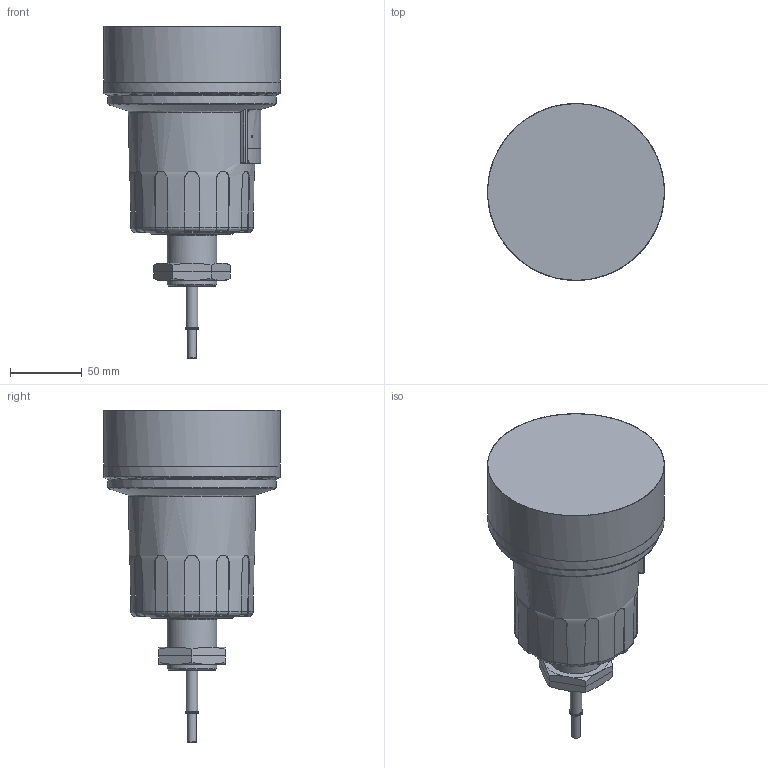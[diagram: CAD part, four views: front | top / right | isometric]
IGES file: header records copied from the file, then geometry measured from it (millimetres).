
Global section: file name: SP_340; native system: Autodesk Inventor 2015; preprocessor: unknown; author: aantal; date: 20150623.094536; units: millimetre
Bounding box: 123 x 123 x 231 mm (x, y, z)
Volume: 1207320.8 mm3; surface area: 111685.5 mm2
Topology: 5 solids, 5 shells, 295 faces, 774 edges, 509 vertices
Faces by surface type: bspline 295
